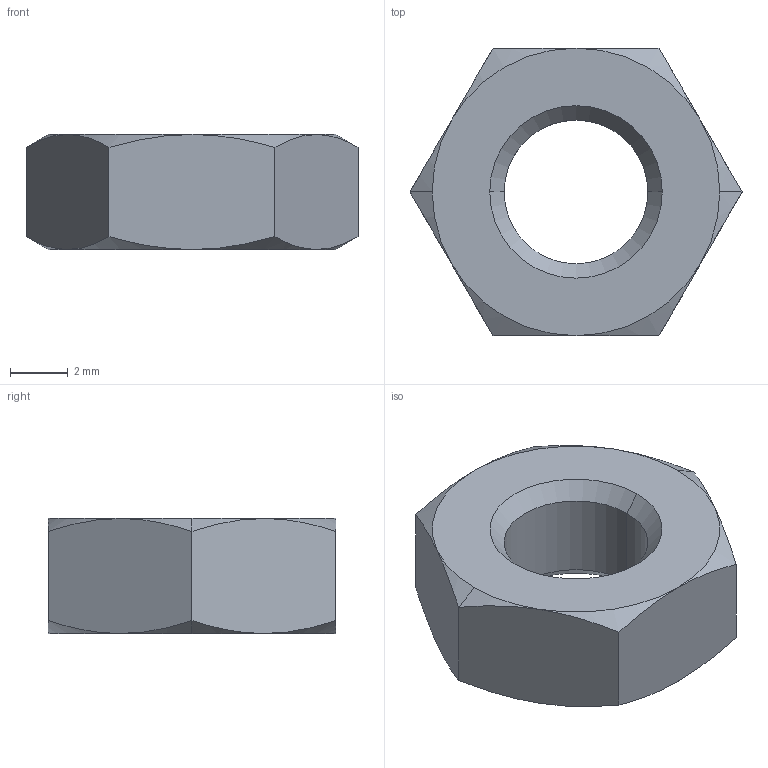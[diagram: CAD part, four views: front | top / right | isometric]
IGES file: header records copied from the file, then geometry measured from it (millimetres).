
Global section: file name: No Iges File Name specified; native system: AutoDesk Inventor R6.0; preprocessor: AutoDesk Inventor Iges Exporter R6.0; author: No Author specified; organization: No Organization specified; date: 20030408.082722; units: millimetre
Bounding box: 11.55 x 10 x 4 mm (x, y, z)
Volume: 261.2 mm3; surface area: 318.4 mm2
Topology: 1 solids, 1 shells, 30 faces, 64 edges, 36 vertices
Faces by surface type: cone 16, plane 8, bspline 4, revolution 2
